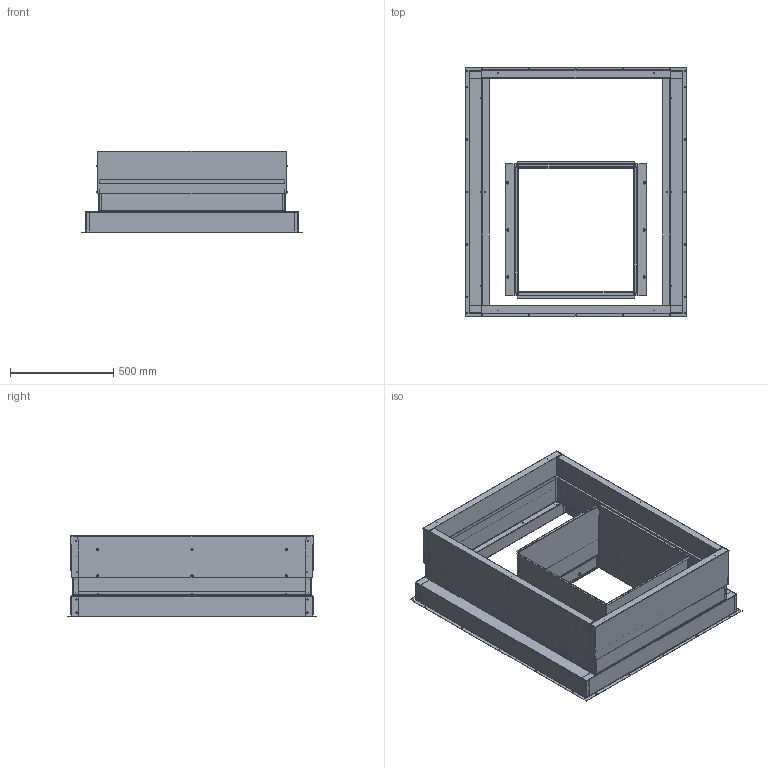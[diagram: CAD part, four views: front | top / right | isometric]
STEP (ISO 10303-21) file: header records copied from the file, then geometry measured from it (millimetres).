
FILE_DESCRIPTION (( 'STEP AP214' ), '1' );
FILE_NAME ('IWSR-B23.STEP', '2022-09-20T15:55:48', ( '' ), ( '' ), 'SwSTEP 2.0', 'SolidWorks 2022', '' );
FILE_SCHEMA (( 'AUTOMOTIVE_DESIGN' ));
Length unit declared in the file: inch
Products named in the file (12): 5021-2431; 110-341; 110-281; 110-284; 110-354; 110-340; 110-278; IWSR-B23; 110-280; 110-285; 110-277; 5021-1690
Assembly tree (22 placements, depth 2):
  IWSR-B23
    110-280  x2
    110-281  x2
    110-277  x2
    110-278  x2
    110-285  x2
    110-284  x2
    110-354  x2
    110-341  x2
    110-340  x2
    5021-2431  x2
    5021-1690  x2
Bounding box: 1070.78 x 1209.39 x 393.34 mm (x, y, z)
Volume: 10089789.7 mm3; surface area: 8697407.5 mm2
Topology: 22 solids, 22 shells, 1350 faces, 3326 edges, 2052 vertices
Faces by surface type: cylinder 670, plane 572, sphere 48, torus 48, bspline 12
Entity records: 21721 total; most frequent: DIRECTION 3806, CARTESIAN_POINT 3792, ORIENTED_EDGE 3326, EDGE_CURVE 1663, AXIS2_PLACEMENT_3D 1476, VERTEX_POINT 1026, EDGE_LOOP 917, VECTOR 854
